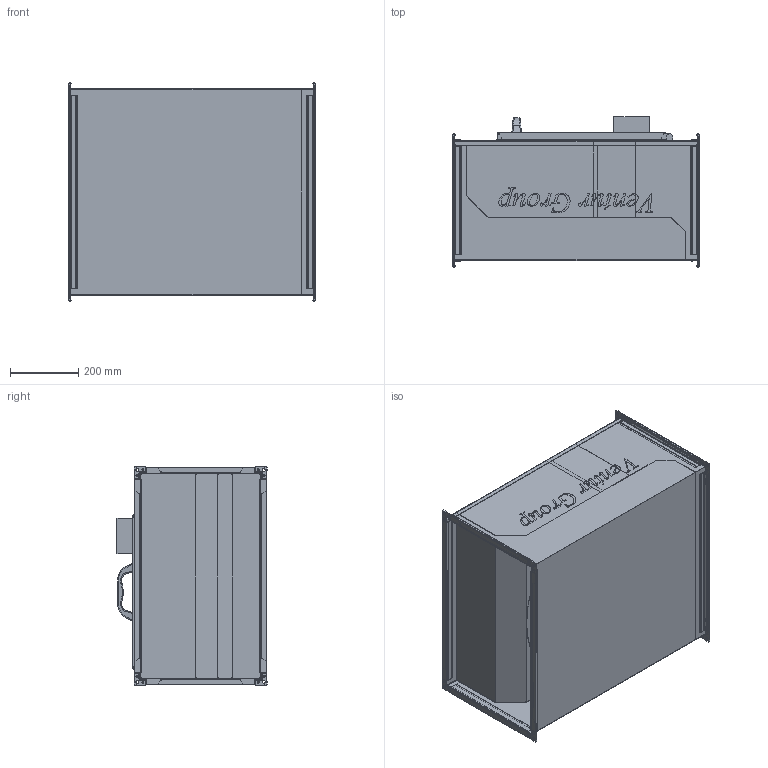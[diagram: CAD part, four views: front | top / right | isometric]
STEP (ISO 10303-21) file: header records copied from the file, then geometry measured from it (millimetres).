
FILE_DESCRIPTION(/* description */ (''),/* implementation_level */ '2;1');
FILE_NAME(/* name */ 'C:\Users\M.Janczarek\Documents\Modele uproszczone\IBF\IBF6-400S 41010132\IBF6_400S 41010132\IBF6_400S 41010132.stp',/* time_stamp */ '2018-03-23T14:54:17+01:00',/* author */ ('M.Janczarek'),/* organization */ (''),/* preprocessor_version */ 'ST-DEVELOPER v16.5',/* originating_system */ 'Autodesk Inventor 2017',/* authorisation */ '');
FILE_SCHEMA (('AUTOMOTIVE_DESIGN { 1 0 10303 214 3 1 1 }'));
Products named in the file (1): IBF6_400S 41010132
Bounding box: 723.6 x 439.99 x 639.97 mm (x, y, z)
Volume: 31146822.4 mm3; surface area: 5443017.5 mm2
Topology: 1 solids, 1 shells, 1730 faces, 4954 edges, 3182 vertices
Faces by surface type: plane 838, cylinder 488, bspline 300, torus 64, cone 24, sphere 16
Full cylindrical faces by diameter (mm): 6 x16, 9 x8, 320 x1, 422 x1
Entity records: 62087 total; most frequent: CARTESIAN_POINT 16488, ORIENTED_EDGE 9840, DIRECTION 8375, EDGE_CURVE 4920, VERTEX_POINT 3190, LINE 3157, VECTOR 3157, AXIS2_PLACEMENT_3D 2609
